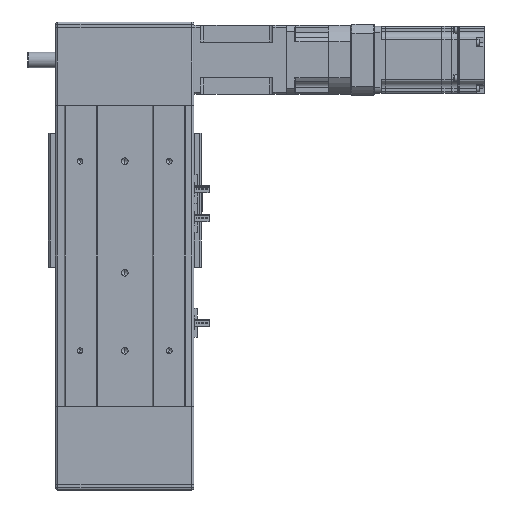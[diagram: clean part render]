
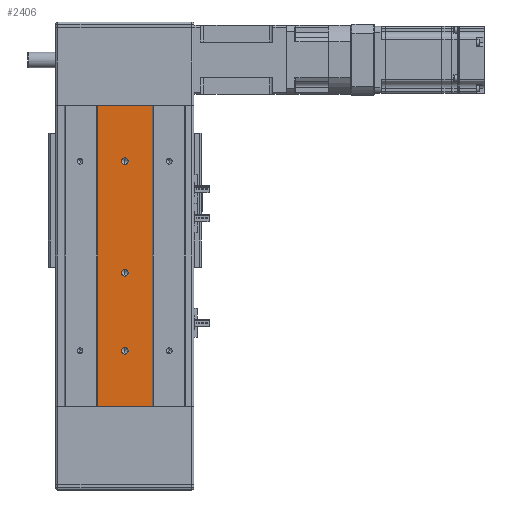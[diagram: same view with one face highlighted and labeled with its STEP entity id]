
A CAD part, front view. The second image highlights one B-rep face of the part: STEP entity #2406.
In plain terms, the highlighted planar face has unit normal (0, -1, 0).
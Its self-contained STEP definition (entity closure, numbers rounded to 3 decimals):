
#421 = CARTESIAN_POINT ( 'NONE',  ( 0., -42., 135. ) ) ;
#429 = PLANE ( 'NONE',  #2005 ) ;
#440 = DIRECTION ( 'NONE',  ( 0., 1., 0. ) ) ;
#455 = DIRECTION ( 'NONE',  ( 0., 0., 1. ) ) ;
#2005 = AXIS2_PLACEMENT_3D ( 'NONE', #421, #440, #455 ) ;
#2406 = ADVANCED_FACE ( 'NONE', ( #43193, #43167, #43150, #43151 ), #429, .F. ) ;
#6614 = VERTEX_POINT ( 'NONE', #58456 ) ;
#6621 = VERTEX_POINT ( 'NONE', #58476 ) ;
#6645 = VERTEX_POINT ( 'NONE', #58530 ) ;
#6647 = VERTEX_POINT ( 'NONE', #58570 ) ;
#6703 = VERTEX_POINT ( 'NONE', #58538 ) ;
#6781 = VERTEX_POINT ( 'NONE', #58627 ) ;
#6989 = VERTEX_POINT ( 'NONE', #58735 ) ;
#7033 = VERTEX_POINT ( 'NONE', #58742 ) ;
#7096 = VERTEX_POINT ( 'NONE', #58779 ) ;
#7124 = VERTEX_POINT ( 'NONE', #58815 ) ;
#17525 = ORIENTED_EDGE ( 'NONE', *, *, #22353, .T. ) ;
#17529 = ORIENTED_EDGE ( 'NONE', *, *, #22345, .T. ) ;
#17531 = ORIENTED_EDGE ( 'NONE', *, *, #22443, .T. ) ;
#17545 = ORIENTED_EDGE ( 'NONE', *, *, #22385, .F. ) ;
#17554 = ORIENTED_EDGE ( 'NONE', *, *, #22391, .T. ) ;
#17560 = ORIENTED_EDGE ( 'NONE', *, *, #22401, .F. ) ;
#17580 = ORIENTED_EDGE ( 'NONE', *, *, #22188, .T. ) ;
#17586 = ORIENTED_EDGE ( 'NONE', *, *, #22106, .T. ) ;
#17589 = ORIENTED_EDGE ( 'NONE', *, *, #22359, .T. ) ;
#17610 = ORIENTED_EDGE ( 'NONE', *, *, #22228, .T. ) ;
#22106 = EDGE_CURVE ( 'NONE', #6645, #6614, #36551, .T. ) ;
#22188 = EDGE_CURVE ( 'NONE', #6781, #6703, #35344, .T. ) ;
#22228 = EDGE_CURVE ( 'NONE', #6621, #6647, #35455, .T. ) ;
#22345 = EDGE_CURVE ( 'NONE', #7033, #7124, #35836, .T. ) ;
#22353 = EDGE_CURVE ( 'NONE', #6614, #6645, #35796, .T. ) ;
#22359 = EDGE_CURVE ( 'NONE', #6703, #6781, #35881, .T. ) ;
#22385 = EDGE_CURVE ( 'NONE', #7096, #6989, #35890, .T. ) ;
#22391 = EDGE_CURVE ( 'NONE', #7096, #7033, #35871, .T. ) ;
#22401 = EDGE_CURVE ( 'NONE', #6989, #7124, #35937, .T. ) ;
#22443 = EDGE_CURVE ( 'NONE', #6647, #6621, #36549, .T. ) ;
#35344 = CIRCLE ( 'NONE', #35631, 3. ) ;
#35455 = CIRCLE ( 'NONE', #35592, 3. ) ;
#35478 = AXIS2_PLACEMENT_3D ( 'NONE', #55654, #55639, #55620 ) ;
#35555 = AXIS2_PLACEMENT_3D ( 'NONE', #56218, #56221, #56222 ) ;
#35568 = AXIS2_PLACEMENT_3D ( 'NONE', #56205, #56191, #56196 ) ;
#35592 = AXIS2_PLACEMENT_3D ( 'NONE', #55892, #55893, #55894 ) ;
#35631 = AXIS2_PLACEMENT_3D ( 'NONE', #55782, #55786, #55794 ) ;
#35691 = AXIS2_PLACEMENT_3D ( 'NONE', #56431, #56452, #56425 ) ;
#35796 = CIRCLE ( 'NONE', #35568, 3. ) ;
#35831 = VECTOR ( 'NONE', #56179, 1000. ) ;
#35836 = LINE ( 'NONE', #56210, #35831 ) ;
#35871 = LINE ( 'NONE', #56271, #35949 ) ;
#35881 = CIRCLE ( 'NONE', #35555, 3. ) ;
#35890 = LINE ( 'NONE', #56260, #35904 ) ;
#35904 = VECTOR ( 'NONE', #56287, 1000. ) ;
#35937 = LINE ( 'NONE', #56319, #35942 ) ;
#35942 = VECTOR ( 'NONE', #56331, 1000. ) ;
#35949 = VECTOR ( 'NONE', #56276, 1000. ) ;
#36549 = CIRCLE ( 'NONE', #35691, 3. ) ;
#36551 = CIRCLE ( 'NONE', #35478, 3. ) ;
#43150 = FACE_BOUND ( 'NONE', #52672, .T. ) ;
#43151 = FACE_OUTER_BOUND ( 'NONE', #52704, .T. ) ;
#43167 = FACE_BOUND ( 'NONE', #52694, .T. ) ;
#43193 = FACE_BOUND ( 'NONE', #52679, .T. ) ;
#52672 = EDGE_LOOP ( 'NONE', ( #17610, #17531 ) ) ;
#52679 = EDGE_LOOP ( 'NONE', ( #17580, #17589 ) ) ;
#52694 = EDGE_LOOP ( 'NONE', ( #17586, #17525 ) ) ;
#52704 = EDGE_LOOP ( 'NONE', ( #17529, #17560, #17545, #17554 ) ) ;
#55620 = DIRECTION ( 'NONE',  ( 0., 0., 1. ) ) ;
#55639 = DIRECTION ( 'NONE',  ( 0., 1., 0. ) ) ;
#55654 = CARTESIAN_POINT ( 'NONE',  ( 0., -42., -15. ) ) ;
#55782 = CARTESIAN_POINT ( 'NONE',  ( 0., -42., 85. ) ) ;
#55786 = DIRECTION ( 'NONE',  ( 0., 1., 0. ) ) ;
#55794 = DIRECTION ( 'NONE',  ( 0., 0., 1. ) ) ;
#55892 = CARTESIAN_POINT ( 'NONE',  ( 0., -42., -85. ) ) ;
#55893 = DIRECTION ( 'NONE',  ( 0., 1., 0. ) ) ;
#55894 = DIRECTION ( 'NONE',  ( 0., 0., 1. ) ) ;
#56179 = DIRECTION ( 'NONE',  ( 1., 0., 0. ) ) ;
#56191 = DIRECTION ( 'NONE',  ( 0., 1., 0. ) ) ;
#56196 = DIRECTION ( 'NONE',  ( 0., 0., 1. ) ) ;
#56205 = CARTESIAN_POINT ( 'NONE',  ( 0., -42., -15. ) ) ;
#56210 = CARTESIAN_POINT ( 'NONE',  ( 0., -42., -135. ) ) ;
#56218 = CARTESIAN_POINT ( 'NONE',  ( 0., -42., 85. ) ) ;
#56221 = DIRECTION ( 'NONE',  ( 0., 1., 0. ) ) ;
#56222 = DIRECTION ( 'NONE',  ( 0., 0., 1. ) ) ;
#56260 = CARTESIAN_POINT ( 'NONE',  ( 0., -42., 135. ) ) ;
#56271 = CARTESIAN_POINT ( 'NONE',  ( -24.5, -42., 135. ) ) ;
#56276 = DIRECTION ( 'NONE',  ( 0., 0., -1. ) ) ;
#56287 = DIRECTION ( 'NONE',  ( 1., 0., 0. ) ) ;
#56319 = CARTESIAN_POINT ( 'NONE',  ( 24.5, -42., 135. ) ) ;
#56331 = DIRECTION ( 'NONE',  ( 0., 0., -1. ) ) ;
#56425 = DIRECTION ( 'NONE',  ( 0., 0., 1. ) ) ;
#56431 = CARTESIAN_POINT ( 'NONE',  ( 0., -42., -85. ) ) ;
#56452 = DIRECTION ( 'NONE',  ( 0., 1., 0. ) ) ;
#58456 = CARTESIAN_POINT ( 'NONE',  ( 0., -42., -12. ) ) ;
#58476 = CARTESIAN_POINT ( 'NONE',  ( 0., -42., -88. ) ) ;
#58530 = CARTESIAN_POINT ( 'NONE',  ( 0., -42., -18. ) ) ;
#58538 = CARTESIAN_POINT ( 'NONE',  ( 0., -42., 88. ) ) ;
#58570 = CARTESIAN_POINT ( 'NONE',  ( 0., -42., -82. ) ) ;
#58627 = CARTESIAN_POINT ( 'NONE',  ( 0., -42., 82. ) ) ;
#58735 = CARTESIAN_POINT ( 'NONE',  ( 24.5, -42., 135. ) ) ;
#58742 = CARTESIAN_POINT ( 'NONE',  ( -24.5, -42., -135. ) ) ;
#58779 = CARTESIAN_POINT ( 'NONE',  ( -24.5, -42., 135. ) ) ;
#58815 = CARTESIAN_POINT ( 'NONE',  ( 24.5, -42., -135. ) ) ;
